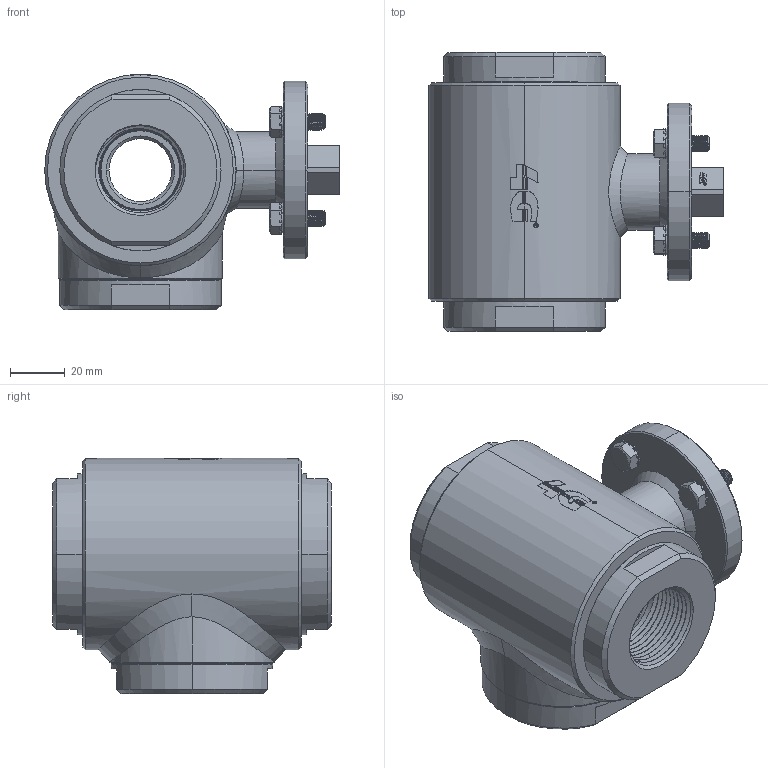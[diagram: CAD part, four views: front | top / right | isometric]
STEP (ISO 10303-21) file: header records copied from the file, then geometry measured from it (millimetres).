
FILE_DESCRIPTION((''),'2;1');
FILE_NAME('3030046261F_SW0001','2025-01-10T08:29:33',('tecnico2'),('CDM Tecnoconsulting'),'CREO PARAMETRIC BY PTC INC, 2024063','CREO PARAMETRIC BY PTC INC, 2024063','');
FILE_SCHEMA(('CONFIG_CONTROL_DESIGN','SHAPE_APPEARANCE_LAYERS_GROUPS'));
Products named in the file (1): 3030046261F_SW0001
Bounding box: 107.75 x 102 x 86 mm (x, y, z)
Volume: 376017.9 mm3; surface area: 66357.4 mm2
Topology: 1 solids, 1 shells, 1526 faces, 4243 edges, 2663 vertices
Faces by surface type: plane 604, cylinder 383, cone 218, bspline 146, extrusion 111, torus 64
Entity records: 129580 total; most frequent: CARTESIAN_POINT 78727, ORIENTED_EDGE 8482, DIRECTION 6055, PRESENTATION_STYLE_ASSIGNMENT 4567, STYLED_ITEM 4298, CURVE_STYLE 4297, EDGE_CURVE 4241, VERTEX_POINT 2663
